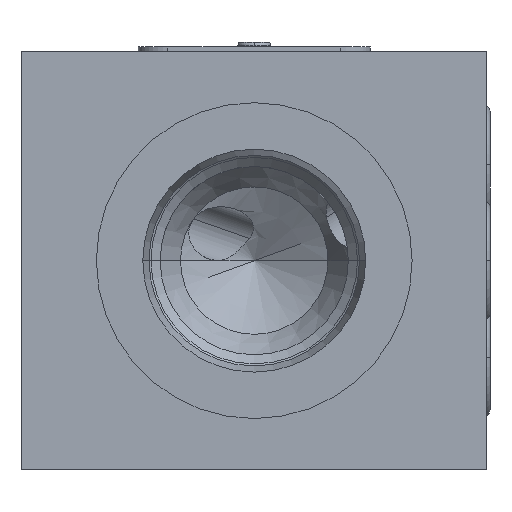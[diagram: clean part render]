
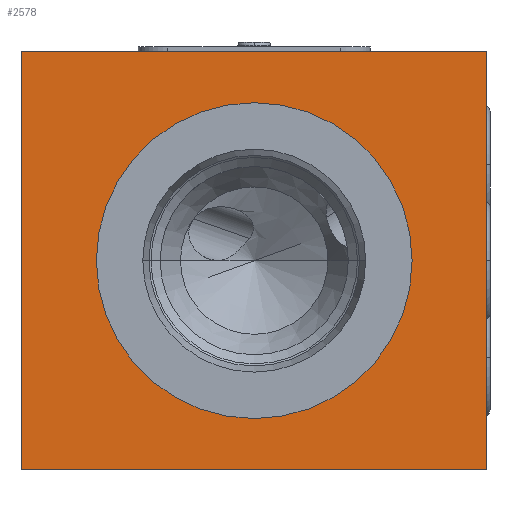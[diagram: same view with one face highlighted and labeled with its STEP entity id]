
A CAD part, left-side view. The second image highlights one B-rep face of the part: STEP entity #2578.
In plain terms, the highlighted planar face has unit normal (-1, 0, 0).
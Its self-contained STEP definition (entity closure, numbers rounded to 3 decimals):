
#55=DIRECTION('',(0.,0.,-1.));
#56=VECTOR('',#55,45.);
#57=CARTESIAN_POINT('',(0.,0.,0.));
#58=LINE('',#57,#56);
#62=DIRECTION('',(0.,1.,0.));
#63=VECTOR('',#62,50.);
#64=CARTESIAN_POINT('',(0.,0.,-45.));
#65=LINE('',#64,#63);
#69=DIRECTION('',(0.,0.,1.));
#70=VECTOR('',#69,45.);
#71=CARTESIAN_POINT('',(0.,50.,-45.));
#72=LINE('',#71,#70);
#76=DIRECTION('',(0.,-1.,0.));
#77=VECTOR('',#76,50.);
#78=CARTESIAN_POINT('',(0.,50.,0.));
#79=LINE('',#78,#77);
#83=CARTESIAN_POINT('',(0.,25.,-22.5));
#84=DIRECTION('',(1.,0.,0.));
#85=DIRECTION('',(0.,-1.,0.));
#86=AXIS2_PLACEMENT_3D('',#83,#84,#85);
#91=CARTESIAN_POINT('',(0.,25.,-22.5));
#92=DIRECTION('',(1.,0.,0.));
#93=DIRECTION('',(0.,1.,0.));
#94=AXIS2_PLACEMENT_3D('',#91,#92,#93);
#2301=CARTESIAN_POINT('',(0.,0.,0.));
#2302=CARTESIAN_POINT('',(0.,0.,-45.));
#2303=VERTEX_POINT('',#2301);
#2304=VERTEX_POINT('',#2302);
#2305=CARTESIAN_POINT('',(0.,50.,-45.));
#2306=VERTEX_POINT('',#2305);
#2307=CARTESIAN_POINT('',(0.,50.,0.));
#2308=VERTEX_POINT('',#2307);
#2491=CARTESIAN_POINT('',(0.,8.,-22.5));
#2492=VERTEX_POINT('',#2491);
#2493=CARTESIAN_POINT('',(0.,42.,-22.5));
#2494=VERTEX_POINT('',#2493);
#2557=CARTESIAN_POINT('',(0.,0.,0.));
#2558=DIRECTION('',(1.,0.,0.));
#2559=DIRECTION('',(0.,0.,-1.));
#2560=AXIS2_PLACEMENT_3D('',#2557,#2558,#2559);
#2561=PLANE('',#2560);
#2563=ORIENTED_EDGE('',*,*,#2562,.T.);
#2565=ORIENTED_EDGE('',*,*,#2564,.T.);
#2567=ORIENTED_EDGE('',*,*,#2566,.T.);
#2569=ORIENTED_EDGE('',*,*,#2568,.T.);
#2570=EDGE_LOOP('',(#2563,#2565,#2567,#2569));
#2571=FACE_OUTER_BOUND('',#2570,.F.);
#2573=ORIENTED_EDGE('',*,*,#2572,.F.);
#2575=ORIENTED_EDGE('',*,*,#2574,.F.);
#2576=EDGE_LOOP('',(#2573,#2575));
#2577=FACE_BOUND('',#2576,.F.);
#87=CIRCLE('',#86,17.);
#95=CIRCLE('',#94,17.);
#2562=EDGE_CURVE('',#2303,#2304,#58,.T.);
#2564=EDGE_CURVE('',#2304,#2306,#65,.T.);
#2566=EDGE_CURVE('',#2306,#2308,#72,.T.);
#2568=EDGE_CURVE('',#2308,#2303,#79,.T.);
#2572=EDGE_CURVE('',#2492,#2494,#87,.T.);
#2574=EDGE_CURVE('',#2494,#2492,#95,.T.);
#2578=ADVANCED_FACE('',(#2571,#2577),#2561,.F.);
